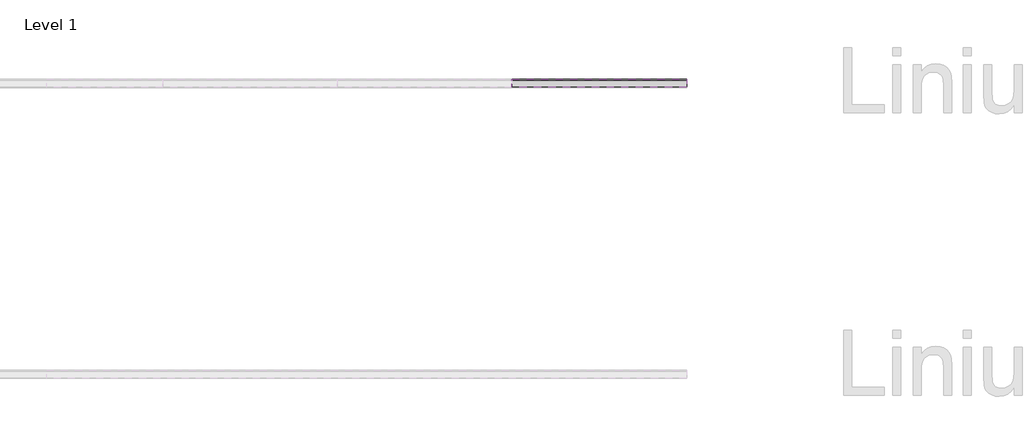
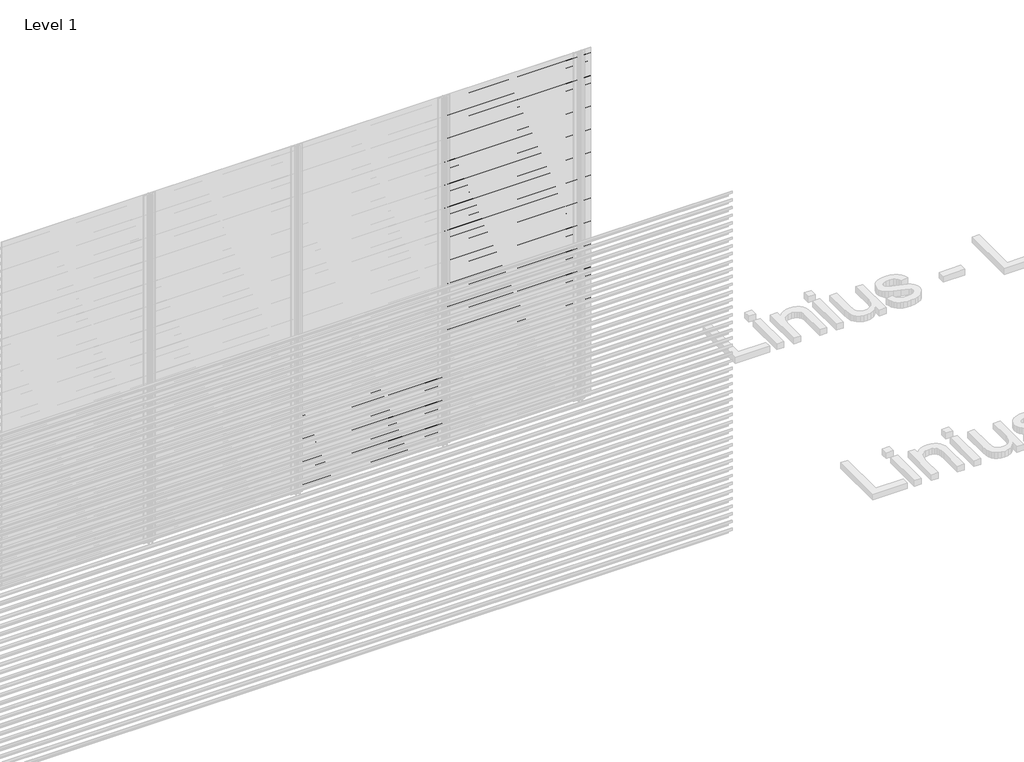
# One storey, part 123 of 540: 43 proxies.
"""IFC4 building model written with IfcOpenShell, lengths in millimetres."""

from ifc_helpers import new_model, si_unit, point, frame, frame_2d, origin, place, context, project, spatial, polyline, circle_curve, trimmed, segment, composite_curve, outline, extrude, element, save

model = new_model("IFC4")

# Units and contexts
model_context = context("Model", 3, world=origin())
ifc_project = project(units=[si_unit("LENGTHUNIT", "METRE", prefix="MILLI")], contexts=[model_context])

# Site, building, storey
site = spatial("IfcSite", under=ifc_project)
building = spatial("IfcBuilding", under=site)
storey = spatial("IfcBuildingStorey", under=building, Name="Level 1", Elevation=0.0)

# Proxies
placement = place(None, origin())
element("IfcBuildingElementProxy", 1, Name="Wall Sweeps", at=placement, inside=storey, context=model_context, shape_type="SweptSolid", body=[
    extrude(outline(composite_curve([segment(trimmed(circle_curve(frame_2d((7017.5825412, 2899.7676769)), 26.4944656), [point((7034.5447587, 2920.1205608))], [point((7044.0270068, 2901.3946208))], False, "CARTESIAN"), True, "CONTINUOUS"), segment(polyline([(7044.0270068, 2901.3946208), (7044.0270068, 2893.5), (7042.7770068, 2894.2216933), (7042.7770068, 2899.7676769)]), True, "CONTINUOUS"), segment(trimmed(circle_curve(frame_2d((7017.5825412, 2899.7676769)), 25.1944656), [point((7042.7770068, 2899.7676769))], [point((7033.7545017, 2919.086807))], True, "CARTESIAN"), True, "CONTINUOUS"), segment(polyline([(7033.7545017, 2919.086807), (6989.0270068, 2950.3158044), (6989.0270068, 2970.0), (6990.2770068, 2970.0), (6990.2770068, 2951.0285629), (7034.5447587, 2920.1205608)]), True, "CONTINUOUS")], self_intersect=False)), frame((94266.6208095, 0.0, 0.0), z_axis=(1.0, 0.0, 0.0), x_axis=(0.0, 1.0, 0.0)), (0.0, 0.0, 1.0), 1200.0000002),
])
element("IfcBuildingElementProxy", 2, Name="Wall Sweeps", at=placement, inside=storey, context=model_context, shape_type="SweptSolid", body=[
    extrude(outline(composite_curve([segment(trimmed(circle_curve(frame_2d((7017.5825412, 2833.7676769)), 26.4944656), [point((7034.5447587, 2854.1205608))], [point((7044.0270068, 2835.3946208))], False, "CARTESIAN"), True, "CONTINUOUS"), segment(polyline([(7044.0270068, 2835.3946208), (7044.0270068, 2827.5), (7042.7770068, 2828.2216933), (7042.7770068, 2833.7676769)]), True, "CONTINUOUS"), segment(trimmed(circle_curve(frame_2d((7017.5825412, 2833.7676769)), 25.1944656), [point((7042.7770068, 2833.7676769))], [point((7033.7545017, 2853.086807))], True, "CARTESIAN"), True, "CONTINUOUS"), segment(polyline([(7033.7545017, 2853.086807), (6989.0270068, 2884.3158044), (6989.0270068, 2904.0), (6990.2770068, 2904.0), (6990.2770068, 2885.0285629), (7034.5447587, 2854.1205608)]), True, "CONTINUOUS")], self_intersect=False)), frame((94266.6208095, 0.0, 0.0), z_axis=(1.0, 0.0, 0.0), x_axis=(0.0, 1.0, 0.0)), (0.0, 0.0, 1.0), 1200.0000002),
])
element("IfcBuildingElementProxy", 3, Name="Wall Sweeps", at=placement, inside=storey, context=model_context, shape_type="SweptSolid", body=[
    extrude(outline(composite_curve([segment(trimmed(circle_curve(frame_2d((7017.5825412, 2767.7676769)), 26.4944656), [point((7034.5447587, 2788.1205608))], [point((7044.0270068, 2769.3946208))], False, "CARTESIAN"), True, "CONTINUOUS"), segment(polyline([(7044.0270068, 2769.3946208), (7044.0270068, 2761.5), (7042.7770068, 2762.2216933), (7042.7770068, 2767.7676769)]), True, "CONTINUOUS"), segment(trimmed(circle_curve(frame_2d((7017.5825412, 2767.7676769)), 25.1944656), [point((7042.7770068, 2767.7676769))], [point((7033.7545017, 2787.086807))], True, "CARTESIAN"), True, "CONTINUOUS"), segment(polyline([(7033.7545017, 2787.086807), (6989.0270068, 2818.3158044), (6989.0270068, 2838.0), (6990.2770068, 2838.0), (6990.2770068, 2819.0285629), (7034.5447587, 2788.1205608)]), True, "CONTINUOUS")], self_intersect=False)), frame((94266.6208095, 0.0, 0.0), z_axis=(1.0, 0.0, 0.0), x_axis=(0.0, 1.0, 0.0)), (0.0, 0.0, 1.0), 1200.0000002),
])
element("IfcBuildingElementProxy", 4, Name="Wall Sweeps", at=placement, inside=storey, context=model_context, shape_type="SweptSolid", body=[
    extrude(outline(composite_curve([segment(trimmed(circle_curve(frame_2d((7017.5825412, 2701.7676769)), 26.4944656), [point((7034.5447587, 2722.1205608))], [point((7044.0270068, 2703.3946208))], False, "CARTESIAN"), True, "CONTINUOUS"), segment(polyline([(7044.0270068, 2703.3946208), (7044.0270068, 2695.5), (7042.7770068, 2696.2216933), (7042.7770068, 2701.7676769)]), True, "CONTINUOUS"), segment(trimmed(circle_curve(frame_2d((7017.5825412, 2701.7676769)), 25.1944656), [point((7042.7770068, 2701.7676769))], [point((7033.7545017, 2721.086807))], True, "CARTESIAN"), True, "CONTINUOUS"), segment(polyline([(7033.7545017, 2721.086807), (6989.0270068, 2752.3158044), (6989.0270068, 2772.0), (6990.2770068, 2772.0), (6990.2770068, 2753.0285629), (7034.5447587, 2722.1205608)]), True, "CONTINUOUS")], self_intersect=False)), frame((94266.6208095, 0.0, 0.0), z_axis=(1.0, 0.0, 0.0), x_axis=(0.0, 1.0, 0.0)), (0.0, 0.0, 1.0), 1200.0000002),
])
element("IfcBuildingElementProxy", 5, Name="Wall Sweeps", at=placement, inside=storey, context=model_context, shape_type="SweptSolid", body=[
    extrude(outline(composite_curve([segment(trimmed(circle_curve(frame_2d((7017.5825412, 2635.7676769)), 26.4944656), [point((7034.5447587, 2656.1205608))], [point((7044.0270068, 2637.3946208))], False, "CARTESIAN"), True, "CONTINUOUS"), segment(polyline([(7044.0270068, 2637.3946208), (7044.0270068, 2629.5), (7042.7770068, 2630.2216933), (7042.7770068, 2635.7676769)]), True, "CONTINUOUS"), segment(trimmed(circle_curve(frame_2d((7017.5825412, 2635.7676769)), 25.1944656), [point((7042.7770068, 2635.7676769))], [point((7033.7545017, 2655.086807))], True, "CARTESIAN"), True, "CONTINUOUS"), segment(polyline([(7033.7545017, 2655.086807), (6989.0270068, 2686.3158044), (6989.0270068, 2706.0), (6990.2770068, 2706.0), (6990.2770068, 2687.0285629), (7034.5447587, 2656.1205608)]), True, "CONTINUOUS")], self_intersect=False)), frame((94266.6208095, 0.0, 0.0), z_axis=(1.0, 0.0, 0.0), x_axis=(0.0, 1.0, 0.0)), (0.0, 0.0, 1.0), 1200.0000002),
])
element("IfcBuildingElementProxy", 6, Name="Wall Sweeps", at=placement, inside=storey, context=model_context, shape_type="SweptSolid", body=[
    extrude(outline(composite_curve([segment(trimmed(circle_curve(frame_2d((7017.5825412, 2569.7676769)), 26.4944656), [point((7034.5447587, 2590.1205608))], [point((7044.0270068, 2571.3946208))], False, "CARTESIAN"), True, "CONTINUOUS"), segment(polyline([(7044.0270068, 2571.3946208), (7044.0270068, 2563.5), (7042.7770068, 2564.2216933), (7042.7770068, 2569.7676769)]), True, "CONTINUOUS"), segment(trimmed(circle_curve(frame_2d((7017.5825412, 2569.7676769)), 25.1944656), [point((7042.7770068, 2569.7676769))], [point((7033.7545017, 2589.086807))], True, "CARTESIAN"), True, "CONTINUOUS"), segment(polyline([(7033.7545017, 2589.086807), (6989.0270068, 2620.3158044), (6989.0270068, 2640.0), (6990.2770068, 2640.0), (6990.2770068, 2621.0285629), (7034.5447587, 2590.1205608)]), True, "CONTINUOUS")], self_intersect=False)), frame((94266.6208095, 0.0, 0.0), z_axis=(1.0, 0.0, 0.0), x_axis=(0.0, 1.0, 0.0)), (0.0, 0.0, 1.0), 1200.0000002),
])
element("IfcBuildingElementProxy", 7, Name="Wall Sweeps", at=placement, inside=storey, context=model_context, shape_type="SweptSolid", body=[
    extrude(outline(composite_curve([segment(trimmed(circle_curve(frame_2d((7017.5825412, 2503.7676769)), 26.4944656), [point((7034.5447587, 2524.1205608))], [point((7044.0270068, 2505.3946208))], False, "CARTESIAN"), True, "CONTINUOUS"), segment(polyline([(7044.0270068, 2505.3946208), (7044.0270068, 2497.5), (7042.7770068, 2498.2216933), (7042.7770068, 2503.7676769)]), True, "CONTINUOUS"), segment(trimmed(circle_curve(frame_2d((7017.5825412, 2503.7676769)), 25.1944656), [point((7042.7770068, 2503.7676769))], [point((7033.7545017, 2523.086807))], True, "CARTESIAN"), True, "CONTINUOUS"), segment(polyline([(7033.7545017, 2523.086807), (6989.0270068, 2554.3158044), (6989.0270068, 2574.0), (6990.2770068, 2574.0), (6990.2770068, 2555.0285629), (7034.5447587, 2524.1205608)]), True, "CONTINUOUS")], self_intersect=False)), frame((94266.6208095, 0.0, 0.0), z_axis=(1.0, 0.0, 0.0), x_axis=(0.0, 1.0, 0.0)), (0.0, 0.0, 1.0), 1200.0000002),
])
element("IfcBuildingElementProxy", 8, Name="Wall Sweeps", at=placement, inside=storey, context=model_context, shape_type="SweptSolid", body=[
    extrude(outline(composite_curve([segment(trimmed(circle_curve(frame_2d((7017.5825412, 2437.7676769)), 26.4944656), [point((7034.5447587, 2458.1205608))], [point((7044.0270068, 2439.3946208))], False, "CARTESIAN"), True, "CONTINUOUS"), segment(polyline([(7044.0270068, 2439.3946208), (7044.0270068, 2431.5), (7042.7770068, 2432.2216933), (7042.7770068, 2437.7676769)]), True, "CONTINUOUS"), segment(trimmed(circle_curve(frame_2d((7017.5825412, 2437.7676769)), 25.1944656), [point((7042.7770068, 2437.7676769))], [point((7033.7545017, 2457.086807))], True, "CARTESIAN"), True, "CONTINUOUS"), segment(polyline([(7033.7545017, 2457.086807), (6989.0270068, 2488.3158044), (6989.0270068, 2508.0), (6990.2770068, 2508.0), (6990.2770068, 2489.0285629), (7034.5447587, 2458.1205608)]), True, "CONTINUOUS")], self_intersect=False)), frame((94266.6208095, 0.0, 0.0), z_axis=(1.0, 0.0, 0.0), x_axis=(0.0, 1.0, 0.0)), (0.0, 0.0, 1.0), 1200.0000002),
])
element("IfcBuildingElementProxy", 9, Name="Wall Sweeps", at=placement, inside=storey, context=model_context, shape_type="SweptSolid", body=[
    extrude(outline(composite_curve([segment(trimmed(circle_curve(frame_2d((7017.5825412, 2371.7676769)), 26.4944656), [point((7034.5447587, 2392.1205608))], [point((7044.0270068, 2373.3946208))], False, "CARTESIAN"), True, "CONTINUOUS"), segment(polyline([(7044.0270068, 2373.3946208), (7044.0270068, 2365.5), (7042.7770068, 2366.2216933), (7042.7770068, 2371.7676769)]), True, "CONTINUOUS"), segment(trimmed(circle_curve(frame_2d((7017.5825412, 2371.7676769)), 25.1944656), [point((7042.7770068, 2371.7676769))], [point((7033.7545017, 2391.086807))], True, "CARTESIAN"), True, "CONTINUOUS"), segment(polyline([(7033.7545017, 2391.086807), (6989.0270068, 2422.3158044), (6989.0270068, 2442.0), (6990.2770068, 2442.0), (6990.2770068, 2423.0285629), (7034.5447587, 2392.1205608)]), True, "CONTINUOUS")], self_intersect=False)), frame((94266.6208095, 0.0, 0.0), z_axis=(1.0, 0.0, 0.0), x_axis=(0.0, 1.0, 0.0)), (0.0, 0.0, 1.0), 1200.0000002),
])
element("IfcBuildingElementProxy", 10, Name="Wall Sweeps", at=placement, inside=storey, context=model_context, shape_type="SweptSolid", body=[
    extrude(outline(composite_curve([segment(trimmed(circle_curve(frame_2d((7017.5825412, 2305.7676769)), 26.4944656), [point((7034.5447587, 2326.1205608))], [point((7044.0270068, 2307.3946208))], False, "CARTESIAN"), True, "CONTINUOUS"), segment(polyline([(7044.0270068, 2307.3946208), (7044.0270068, 2299.5), (7042.7770068, 2300.2216933), (7042.7770068, 2305.7676769)]), True, "CONTINUOUS"), segment(trimmed(circle_curve(frame_2d((7017.5825412, 2305.7676769)), 25.1944656), [point((7042.7770068, 2305.7676769))], [point((7033.7545017, 2325.086807))], True, "CARTESIAN"), True, "CONTINUOUS"), segment(polyline([(7033.7545017, 2325.086807), (6989.0270068, 2356.3158044), (6989.0270068, 2376.0), (6990.2770068, 2376.0), (6990.2770068, 2357.0285629), (7034.5447587, 2326.1205608)]), True, "CONTINUOUS")], self_intersect=False)), frame((94266.6208095, 0.0, 0.0), z_axis=(1.0, 0.0, 0.0), x_axis=(0.0, 1.0, 0.0)), (0.0, 0.0, 1.0), 1200.0000002),
])
element("IfcBuildingElementProxy", 11, Name="Wall Sweeps", at=placement, inside=storey, context=model_context, shape_type="SweptSolid", body=[
    extrude(outline(composite_curve([segment(trimmed(circle_curve(frame_2d((7017.5825412, 2239.7676769)), 26.4944656), [point((7034.5447587, 2260.1205608))], [point((7044.0270068, 2241.3946208))], False, "CARTESIAN"), True, "CONTINUOUS"), segment(polyline([(7044.0270068, 2241.3946208), (7044.0270068, 2233.5), (7042.7770068, 2234.2216933), (7042.7770068, 2239.7676769)]), True, "CONTINUOUS"), segment(trimmed(circle_curve(frame_2d((7017.5825412, 2239.7676769)), 25.1944656), [point((7042.7770068, 2239.7676769))], [point((7033.7545017, 2259.086807))], True, "CARTESIAN"), True, "CONTINUOUS"), segment(polyline([(7033.7545017, 2259.086807), (6989.0270068, 2290.3158044), (6989.0270068, 2310.0), (6990.2770068, 2310.0), (6990.2770068, 2291.0285629), (7034.5447587, 2260.1205608)]), True, "CONTINUOUS")], self_intersect=False)), frame((94266.6208095, 0.0, 0.0), z_axis=(1.0, 0.0, 0.0), x_axis=(0.0, 1.0, 0.0)), (0.0, 0.0, 1.0), 1200.0000002),
])
element("IfcBuildingElementProxy", 12, Name="Wall Sweeps", at=placement, inside=storey, context=model_context, shape_type="SweptSolid", body=[
    extrude(outline(composite_curve([segment(trimmed(circle_curve(frame_2d((7017.5825412, 2173.7676769)), 26.4944656), [point((7034.5447587, 2194.1205608))], [point((7044.0270068, 2175.3946208))], False, "CARTESIAN"), True, "CONTINUOUS"), segment(polyline([(7044.0270068, 2175.3946208), (7044.0270068, 2167.5), (7042.7770068, 2168.2216933), (7042.7770068, 2173.7676769)]), True, "CONTINUOUS"), segment(trimmed(circle_curve(frame_2d((7017.5825412, 2173.7676769)), 25.1944656), [point((7042.7770068, 2173.7676769))], [point((7033.7545017, 2193.086807))], True, "CARTESIAN"), True, "CONTINUOUS"), segment(polyline([(7033.7545017, 2193.086807), (6989.0270068, 2224.3158044), (6989.0270068, 2244.0), (6990.2770068, 2244.0), (6990.2770068, 2225.0285629), (7034.5447587, 2194.1205608)]), True, "CONTINUOUS")], self_intersect=False)), frame((94266.6208095, 0.0, 0.0), z_axis=(1.0, 0.0, 0.0), x_axis=(0.0, 1.0, 0.0)), (0.0, 0.0, 1.0), 1200.0000002),
])
element("IfcBuildingElementProxy", 13, Name="Wall Sweeps", at=placement, inside=storey, context=model_context, shape_type="SweptSolid", body=[
    extrude(outline(composite_curve([segment(trimmed(circle_curve(frame_2d((7017.5825412, 2107.7676769)), 26.4944656), [point((7034.5447587, 2128.1205608))], [point((7044.0270068, 2109.3946208))], False, "CARTESIAN"), True, "CONTINUOUS"), segment(polyline([(7044.0270068, 2109.3946208), (7044.0270068, 2101.5), (7042.7770068, 2102.2216933), (7042.7770068, 2107.7676769)]), True, "CONTINUOUS"), segment(trimmed(circle_curve(frame_2d((7017.5825412, 2107.7676769)), 25.1944656), [point((7042.7770068, 2107.7676769))], [point((7033.7545017, 2127.086807))], True, "CARTESIAN"), True, "CONTINUOUS"), segment(polyline([(7033.7545017, 2127.086807), (6989.0270068, 2158.3158044), (6989.0270068, 2178.0), (6990.2770068, 2178.0), (6990.2770068, 2159.0285629), (7034.5447587, 2128.1205608)]), True, "CONTINUOUS")], self_intersect=False)), frame((94266.6208095, 0.0, 0.0), z_axis=(1.0, 0.0, 0.0), x_axis=(0.0, 1.0, 0.0)), (0.0, 0.0, 1.0), 1200.0000002),
])
element("IfcBuildingElementProxy", 14, Name="Wall Sweeps", at=placement, inside=storey, context=model_context, shape_type="SweptSolid", body=[
    extrude(outline(composite_curve([segment(trimmed(circle_curve(frame_2d((7017.5825412, 2041.7676769)), 26.4944656), [point((7034.5447587, 2062.1205608))], [point((7044.0270068, 2043.3946208))], False, "CARTESIAN"), True, "CONTINUOUS"), segment(polyline([(7044.0270068, 2043.3946208), (7044.0270068, 2035.5), (7042.7770068, 2036.2216933), (7042.7770068, 2041.7676769)]), True, "CONTINUOUS"), segment(trimmed(circle_curve(frame_2d((7017.5825412, 2041.7676769)), 25.1944656), [point((7042.7770068, 2041.7676769))], [point((7033.7545017, 2061.086807))], True, "CARTESIAN"), True, "CONTINUOUS"), segment(polyline([(7033.7545017, 2061.086807), (6989.0270068, 2092.3158044), (6989.0270068, 2112.0), (6990.2770068, 2112.0), (6990.2770068, 2093.0285629), (7034.5447587, 2062.1205608)]), True, "CONTINUOUS")], self_intersect=False)), frame((94266.6208095, 0.0, 0.0), z_axis=(1.0, 0.0, 0.0), x_axis=(0.0, 1.0, 0.0)), (0.0, 0.0, 1.0), 1200.0000002),
])
element("IfcBuildingElementProxy", 15, Name="Wall Sweeps", at=placement, inside=storey, context=model_context, shape_type="SweptSolid", body=[
    extrude(outline(composite_curve([segment(trimmed(circle_curve(frame_2d((7017.5825412, 1975.7676769)), 26.4944656), [point((7034.5447587, 1996.1205608))], [point((7044.0270068, 1977.3946208))], False, "CARTESIAN"), True, "CONTINUOUS"), segment(polyline([(7044.0270068, 1977.3946208), (7044.0270068, 1969.5), (7042.7770068, 1970.2216933), (7042.7770068, 1975.7676769)]), True, "CONTINUOUS"), segment(trimmed(circle_curve(frame_2d((7017.5825412, 1975.7676769)), 25.1944656), [point((7042.7770068, 1975.7676769))], [point((7033.7545017, 1995.086807))], True, "CARTESIAN"), True, "CONTINUOUS"), segment(polyline([(7033.7545017, 1995.086807), (6989.0270068, 2026.3158044), (6989.0270068, 2046.0), (6990.2770068, 2046.0), (6990.2770068, 2027.0285629), (7034.5447587, 1996.1205608)]), True, "CONTINUOUS")], self_intersect=False)), frame((94266.6208095, 0.0, 0.0), z_axis=(1.0, 0.0, 0.0), x_axis=(0.0, 1.0, 0.0)), (0.0, 0.0, 1.0), 1200.0000002),
])
element("IfcBuildingElementProxy", 16, Name="Wall Sweeps", at=placement, inside=storey, context=model_context, shape_type="SweptSolid", body=[
    extrude(outline(composite_curve([segment(trimmed(circle_curve(frame_2d((7017.5825412, 1909.7676769)), 26.4944656), [point((7034.5447587, 1930.1205608))], [point((7044.0270068, 1911.3946208))], False, "CARTESIAN"), True, "CONTINUOUS"), segment(polyline([(7044.0270068, 1911.3946208), (7044.0270068, 1903.5), (7042.7770068, 1904.2216933), (7042.7770068, 1909.7676769)]), True, "CONTINUOUS"), segment(trimmed(circle_curve(frame_2d((7017.5825412, 1909.7676769)), 25.1944656), [point((7042.7770068, 1909.7676769))], [point((7033.7545017, 1929.086807))], True, "CARTESIAN"), True, "CONTINUOUS"), segment(polyline([(7033.7545017, 1929.086807), (6989.0270068, 1960.3158044), (6989.0270068, 1980.0), (6990.2770068, 1980.0), (6990.2770068, 1961.0285629), (7034.5447587, 1930.1205608)]), True, "CONTINUOUS")], self_intersect=False)), frame((94266.6208095, 0.0, 0.0), z_axis=(1.0, 0.0, 0.0), x_axis=(0.0, 1.0, 0.0)), (0.0, 0.0, 1.0), 1200.0000002),
])
element("IfcBuildingElementProxy", 17, Name="Wall Sweeps", at=placement, inside=storey, context=model_context, shape_type="SweptSolid", body=[
    extrude(outline(composite_curve([segment(trimmed(circle_curve(frame_2d((7017.5825412, 1843.7676769)), 26.4944656), [point((7034.5447587, 1864.1205608))], [point((7044.0270068, 1845.3946208))], False, "CARTESIAN"), True, "CONTINUOUS"), segment(polyline([(7044.0270068, 1845.3946208), (7044.0270068, 1837.5), (7042.7770068, 1838.2216933), (7042.7770068, 1843.7676769)]), True, "CONTINUOUS"), segment(trimmed(circle_curve(frame_2d((7017.5825412, 1843.7676769)), 25.1944656), [point((7042.7770068, 1843.7676769))], [point((7033.7545017, 1863.086807))], True, "CARTESIAN"), True, "CONTINUOUS"), segment(polyline([(7033.7545017, 1863.086807), (6989.0270068, 1894.3158044), (6989.0270068, 1914.0), (6990.2770068, 1914.0), (6990.2770068, 1895.0285629), (7034.5447587, 1864.1205608)]), True, "CONTINUOUS")], self_intersect=False)), frame((94266.6208095, 0.0, 0.0), z_axis=(1.0, 0.0, 0.0), x_axis=(0.0, 1.0, 0.0)), (0.0, 0.0, 1.0), 1200.0000002),
])
element("IfcBuildingElementProxy", 18, Name="Wall Sweeps", at=placement, inside=storey, context=model_context, shape_type="SweptSolid", body=[
    extrude(outline(composite_curve([segment(trimmed(circle_curve(frame_2d((7017.5825412, 1777.7676769)), 26.4944656), [point((7034.5447587, 1798.1205608))], [point((7044.0270068, 1779.3946208))], False, "CARTESIAN"), True, "CONTINUOUS"), segment(polyline([(7044.0270068, 1779.3946208), (7044.0270068, 1771.5), (7042.7770068, 1772.2216933), (7042.7770068, 1777.7676769)]), True, "CONTINUOUS"), segment(trimmed(circle_curve(frame_2d((7017.5825412, 1777.7676769)), 25.1944656), [point((7042.7770068, 1777.7676769))], [point((7033.7545017, 1797.086807))], True, "CARTESIAN"), True, "CONTINUOUS"), segment(polyline([(7033.7545017, 1797.086807), (6989.0270068, 1828.3158044), (6989.0270068, 1848.0), (6990.2770068, 1848.0), (6990.2770068, 1829.0285629), (7034.5447587, 1798.1205608)]), True, "CONTINUOUS")], self_intersect=False)), frame((94266.6208095, 0.0, 0.0), z_axis=(1.0, 0.0, 0.0), x_axis=(0.0, 1.0, 0.0)), (0.0, 0.0, 1.0), 1200.0000002),
])
element("IfcBuildingElementProxy", 19, Name="Wall Sweeps", at=placement, inside=storey, context=model_context, shape_type="SweptSolid", body=[
    extrude(outline(composite_curve([segment(trimmed(circle_curve(frame_2d((7017.5825412, 1711.7676769)), 26.4944656), [point((7034.5447587, 1732.1205608))], [point((7044.0270068, 1713.3946208))], False, "CARTESIAN"), True, "CONTINUOUS"), segment(polyline([(7044.0270068, 1713.3946208), (7044.0270068, 1705.5), (7042.7770068, 1706.2216933), (7042.7770068, 1711.7676769)]), True, "CONTINUOUS"), segment(trimmed(circle_curve(frame_2d((7017.5825412, 1711.7676769)), 25.1944656), [point((7042.7770068, 1711.7676769))], [point((7033.7545017, 1731.086807))], True, "CARTESIAN"), True, "CONTINUOUS"), segment(polyline([(7033.7545017, 1731.086807), (6989.0270068, 1762.3158044), (6989.0270068, 1782.0), (6990.2770068, 1782.0), (6990.2770068, 1763.0285629), (7034.5447587, 1732.1205608)]), True, "CONTINUOUS")], self_intersect=False)), frame((94266.6208095, 0.0, 0.0), z_axis=(1.0, 0.0, 0.0), x_axis=(0.0, 1.0, 0.0)), (0.0, 0.0, 1.0), 1200.0000002),
])
element("IfcBuildingElementProxy", 20, Name="Wall Sweeps", at=placement, inside=storey, context=model_context, shape_type="SweptSolid", body=[
    extrude(outline(composite_curve([segment(trimmed(circle_curve(frame_2d((7017.5825412, 1645.7676769)), 26.4944656), [point((7034.5447587, 1666.1205608))], [point((7044.0270068, 1647.3946208))], False, "CARTESIAN"), True, "CONTINUOUS"), segment(polyline([(7044.0270068, 1647.3946208), (7044.0270068, 1639.5), (7042.7770068, 1640.2216933), (7042.7770068, 1645.7676769)]), True, "CONTINUOUS"), segment(trimmed(circle_curve(frame_2d((7017.5825412, 1645.7676769)), 25.1944656), [point((7042.7770068, 1645.7676769))], [point((7033.7545017, 1665.086807))], True, "CARTESIAN"), True, "CONTINUOUS"), segment(polyline([(7033.7545017, 1665.086807), (6989.0270068, 1696.3158044), (6989.0270068, 1716.0), (6990.2770068, 1716.0), (6990.2770068, 1697.0285629), (7034.5447587, 1666.1205608)]), True, "CONTINUOUS")], self_intersect=False)), frame((94266.6208095, 0.0, 0.0), z_axis=(1.0, 0.0, 0.0), x_axis=(0.0, 1.0, 0.0)), (0.0, 0.0, 1.0), 1200.0000002),
])
element("IfcBuildingElementProxy", 21, Name="Wall Sweeps", at=placement, inside=storey, context=model_context, shape_type="SweptSolid", body=[
    extrude(outline(composite_curve([segment(trimmed(circle_curve(frame_2d((7017.5825412, 1579.7676769)), 26.4944656), [point((7034.5447587, 1600.1205608))], [point((7044.0270068, 1581.3946208))], False, "CARTESIAN"), True, "CONTINUOUS"), segment(polyline([(7044.0270068, 1581.3946208), (7044.0270068, 1573.5), (7042.7770068, 1574.2216933), (7042.7770068, 1579.7676769)]), True, "CONTINUOUS"), segment(trimmed(circle_curve(frame_2d((7017.5825412, 1579.7676769)), 25.1944656), [point((7042.7770068, 1579.7676769))], [point((7033.7545017, 1599.086807))], True, "CARTESIAN"), True, "CONTINUOUS"), segment(polyline([(7033.7545017, 1599.086807), (6989.0270068, 1630.3158044), (6989.0270068, 1650.0), (6990.2770068, 1650.0), (6990.2770068, 1631.0285629), (7034.5447587, 1600.1205608)]), True, "CONTINUOUS")], self_intersect=False)), frame((94266.6208095, 0.0, 0.0), z_axis=(1.0, 0.0, 0.0), x_axis=(0.0, 1.0, 0.0)), (0.0, 0.0, 1.0), 1200.0000002),
])
element("IfcBuildingElementProxy", 22, Name="Wall Sweeps", at=placement, inside=storey, context=model_context, shape_type="SweptSolid", body=[
    extrude(outline(composite_curve([segment(trimmed(circle_curve(frame_2d((7017.5825412, 1513.7676769)), 26.4944656), [point((7034.5447587, 1534.1205608))], [point((7044.0270068, 1515.3946208))], False, "CARTESIAN"), True, "CONTINUOUS"), segment(polyline([(7044.0270068, 1515.3946208), (7044.0270068, 1507.5), (7042.7770068, 1508.2216933), (7042.7770068, 1513.7676769)]), True, "CONTINUOUS"), segment(trimmed(circle_curve(frame_2d((7017.5825412, 1513.7676769)), 25.1944656), [point((7042.7770068, 1513.7676769))], [point((7033.7545017, 1533.086807))], True, "CARTESIAN"), True, "CONTINUOUS"), segment(polyline([(7033.7545017, 1533.086807), (6989.0270068, 1564.3158044), (6989.0270068, 1584.0), (6990.2770068, 1584.0), (6990.2770068, 1565.0285629), (7034.5447587, 1534.1205608)]), True, "CONTINUOUS")], self_intersect=False)), frame((94266.6208095, 0.0, 0.0), z_axis=(1.0, 0.0, 0.0), x_axis=(0.0, 1.0, 0.0)), (0.0, 0.0, 1.0), 1200.0000002),
])
element("IfcBuildingElementProxy", 23, Name="Wall Sweeps", at=placement, inside=storey, context=model_context, shape_type="SweptSolid", body=[
    extrude(outline(composite_curve([segment(trimmed(circle_curve(frame_2d((7017.5825412, 1447.7676769)), 26.4944656), [point((7034.5447587, 1468.1205608))], [point((7044.0270068, 1449.3946208))], False, "CARTESIAN"), True, "CONTINUOUS"), segment(polyline([(7044.0270068, 1449.3946208), (7044.0270068, 1441.5), (7042.7770068, 1442.2216933), (7042.7770068, 1447.7676769)]), True, "CONTINUOUS"), segment(trimmed(circle_curve(frame_2d((7017.5825412, 1447.7676769)), 25.1944656), [point((7042.7770068, 1447.7676769))], [point((7033.7545017, 1467.086807))], True, "CARTESIAN"), True, "CONTINUOUS"), segment(polyline([(7033.7545017, 1467.086807), (6989.0270068, 1498.3158044), (6989.0270068, 1518.0), (6990.2770068, 1518.0), (6990.2770068, 1499.0285629), (7034.5447587, 1468.1205608)]), True, "CONTINUOUS")], self_intersect=False)), frame((94266.6208095, 0.0, 0.0), z_axis=(1.0, 0.0, 0.0), x_axis=(0.0, 1.0, 0.0)), (0.0, 0.0, 1.0), 1200.0000002),
])
element("IfcBuildingElementProxy", 24, Name="Wall Sweeps", at=placement, inside=storey, context=model_context, shape_type="SweptSolid", body=[
    extrude(outline(composite_curve([segment(trimmed(circle_curve(frame_2d((7017.5825412, 1381.7676769)), 26.4944656), [point((7034.5447587, 1402.1205608))], [point((7044.0270068, 1383.3946208))], False, "CARTESIAN"), True, "CONTINUOUS"), segment(polyline([(7044.0270068, 1383.3946208), (7044.0270068, 1375.5), (7042.7770068, 1376.2216933), (7042.7770068, 1381.7676769)]), True, "CONTINUOUS"), segment(trimmed(circle_curve(frame_2d((7017.5825412, 1381.7676769)), 25.1944656), [point((7042.7770068, 1381.7676769))], [point((7033.7545017, 1401.086807))], True, "CARTESIAN"), True, "CONTINUOUS"), segment(polyline([(7033.7545017, 1401.086807), (6989.0270068, 1432.3158044), (6989.0270068, 1452.0), (6990.2770068, 1452.0), (6990.2770068, 1433.0285629), (7034.5447587, 1402.1205608)]), True, "CONTINUOUS")], self_intersect=False)), frame((94266.6208095, 0.0, 0.0), z_axis=(1.0, 0.0, 0.0), x_axis=(0.0, 1.0, 0.0)), (0.0, 0.0, 1.0), 1200.0000002),
])
element("IfcBuildingElementProxy", 25, Name="Wall Sweeps", at=placement, inside=storey, context=model_context, shape_type="SweptSolid", body=[
    extrude(outline(composite_curve([segment(trimmed(circle_curve(frame_2d((7017.5825412, 1315.7676769)), 26.4944656), [point((7034.5447587, 1336.1205608))], [point((7044.0270068, 1317.3946208))], False, "CARTESIAN"), True, "CONTINUOUS"), segment(polyline([(7044.0270068, 1317.3946208), (7044.0270068, 1309.5), (7042.7770068, 1310.2216933), (7042.7770068, 1315.7676769)]), True, "CONTINUOUS"), segment(trimmed(circle_curve(frame_2d((7017.5825412, 1315.7676769)), 25.1944656), [point((7042.7770068, 1315.7676769))], [point((7033.7545017, 1335.086807))], True, "CARTESIAN"), True, "CONTINUOUS"), segment(polyline([(7033.7545017, 1335.086807), (6989.0270068, 1366.3158044), (6989.0270068, 1386.0), (6990.2770068, 1386.0), (6990.2770068, 1367.0285629), (7034.5447587, 1336.1205608)]), True, "CONTINUOUS")], self_intersect=False)), frame((94266.6208095, 0.0, 0.0), z_axis=(1.0, 0.0, 0.0), x_axis=(0.0, 1.0, 0.0)), (0.0, 0.0, 1.0), 1200.0000002),
])
element("IfcBuildingElementProxy", 26, Name="Wall Sweeps", at=placement, inside=storey, context=model_context, shape_type="SweptSolid", body=[
    extrude(outline(composite_curve([segment(trimmed(circle_curve(frame_2d((7017.5825412, 1249.7676769)), 26.4944656), [point((7034.5447587, 1270.1205608))], [point((7044.0270068, 1251.3946208))], False, "CARTESIAN"), True, "CONTINUOUS"), segment(polyline([(7044.0270068, 1251.3946208), (7044.0270068, 1243.5), (7042.7770068, 1244.2216933), (7042.7770068, 1249.7676769)]), True, "CONTINUOUS"), segment(trimmed(circle_curve(frame_2d((7017.5825412, 1249.7676769)), 25.1944656), [point((7042.7770068, 1249.7676769))], [point((7033.7545017, 1269.086807))], True, "CARTESIAN"), True, "CONTINUOUS"), segment(polyline([(7033.7545017, 1269.086807), (6989.0270068, 1300.3158044), (6989.0270068, 1320.0), (6990.2770068, 1320.0), (6990.2770068, 1301.0285629), (7034.5447587, 1270.1205608)]), True, "CONTINUOUS")], self_intersect=False)), frame((94266.6208095, 0.0, 0.0), z_axis=(1.0, 0.0, 0.0), x_axis=(0.0, 1.0, 0.0)), (0.0, 0.0, 1.0), 1200.0000002),
])
element("IfcBuildingElementProxy", 27, Name="Wall Sweeps", at=placement, inside=storey, context=model_context, shape_type="SweptSolid", body=[
    extrude(outline(composite_curve([segment(trimmed(circle_curve(frame_2d((7017.5825412, 1183.7676769)), 26.4944656), [point((7034.5447587, 1204.1205608))], [point((7044.0270068, 1185.3946208))], False, "CARTESIAN"), True, "CONTINUOUS"), segment(polyline([(7044.0270068, 1185.3946208), (7044.0270068, 1177.5), (7042.7770068, 1178.2216933), (7042.7770068, 1183.7676769)]), True, "CONTINUOUS"), segment(trimmed(circle_curve(frame_2d((7017.5825412, 1183.7676769)), 25.1944656), [point((7042.7770068, 1183.7676769))], [point((7033.7545017, 1203.086807))], True, "CARTESIAN"), True, "CONTINUOUS"), segment(polyline([(7033.7545017, 1203.086807), (6989.0270068, 1234.3158044), (6989.0270068, 1254.0), (6990.2770068, 1254.0), (6990.2770068, 1235.0285629), (7034.5447587, 1204.1205608)]), True, "CONTINUOUS")], self_intersect=False)), frame((94266.6208095, 0.0, 0.0), z_axis=(1.0, 0.0, 0.0), x_axis=(0.0, 1.0, 0.0)), (0.0, 0.0, 1.0), 1200.0000002),
])
element("IfcBuildingElementProxy", 28, Name="Wall Sweeps", at=placement, inside=storey, context=model_context, shape_type="SweptSolid", body=[
    extrude(outline(composite_curve([segment(trimmed(circle_curve(frame_2d((7017.5825412, 1117.7676769)), 26.4944656), [point((7034.5447587, 1138.1205608))], [point((7044.0270068, 1119.3946208))], False, "CARTESIAN"), True, "CONTINUOUS"), segment(polyline([(7044.0270068, 1119.3946208), (7044.0270068, 1111.5), (7042.7770068, 1112.2216933), (7042.7770068, 1117.7676769)]), True, "CONTINUOUS"), segment(trimmed(circle_curve(frame_2d((7017.5825412, 1117.7676769)), 25.1944656), [point((7042.7770068, 1117.7676769))], [point((7033.7545017, 1137.086807))], True, "CARTESIAN"), True, "CONTINUOUS"), segment(polyline([(7033.7545017, 1137.086807), (6989.0270068, 1168.3158044), (6989.0270068, 1188.0), (6990.2770068, 1188.0), (6990.2770068, 1169.0285629), (7034.5447587, 1138.1205608)]), True, "CONTINUOUS")], self_intersect=False)), frame((94266.6208095, 0.0, 0.0), z_axis=(1.0, 0.0, 0.0), x_axis=(0.0, 1.0, 0.0)), (0.0, 0.0, 1.0), 1200.0000002),
])
element("IfcBuildingElementProxy", 29, Name="Wall Sweeps", at=placement, inside=storey, context=model_context, shape_type="SweptSolid", body=[
    extrude(outline(composite_curve([segment(trimmed(circle_curve(frame_2d((7017.5825412, 1051.7676769)), 26.4944656), [point((7034.5447587, 1072.1205608))], [point((7044.0270068, 1053.3946208))], False, "CARTESIAN"), True, "CONTINUOUS"), segment(polyline([(7044.0270068, 1053.3946208), (7044.0270068, 1045.5), (7042.7770068, 1046.2216933), (7042.7770068, 1051.7676769)]), True, "CONTINUOUS"), segment(trimmed(circle_curve(frame_2d((7017.5825412, 1051.7676769)), 25.1944656), [point((7042.7770068, 1051.7676769))], [point((7033.7545017, 1071.086807))], True, "CARTESIAN"), True, "CONTINUOUS"), segment(polyline([(7033.7545017, 1071.086807), (6989.0270068, 1102.3158044), (6989.0270068, 1122.0), (6990.2770068, 1122.0), (6990.2770068, 1103.0285629), (7034.5447587, 1072.1205608)]), True, "CONTINUOUS")], self_intersect=False)), frame((94266.6208095, 0.0, 0.0), z_axis=(1.0, 0.0, 0.0), x_axis=(0.0, 1.0, 0.0)), (0.0, 0.0, 1.0), 1200.0000002),
])
element("IfcBuildingElementProxy", 30, Name="Wall Sweeps", at=placement, inside=storey, context=model_context, shape_type="SweptSolid", body=[
    extrude(outline(composite_curve([segment(trimmed(circle_curve(frame_2d((7017.5825412, 985.7676769)), 26.4944656), [point((7034.5447587, 1006.1205608))], [point((7044.0270068, 987.3946208))], False, "CARTESIAN"), True, "CONTINUOUS"), segment(polyline([(7044.0270068, 987.3946208), (7044.0270068, 979.5), (7042.7770068, 980.2216933), (7042.7770068, 985.7676769)]), True, "CONTINUOUS"), segment(trimmed(circle_curve(frame_2d((7017.5825412, 985.7676769)), 25.1944656), [point((7042.7770068, 985.7676769))], [point((7033.7545017, 1005.086807))], True, "CARTESIAN"), True, "CONTINUOUS"), segment(polyline([(7033.7545017, 1005.086807), (6989.0270068, 1036.3158044), (6989.0270068, 1056.0), (6990.2770068, 1056.0), (6990.2770068, 1037.0285629), (7034.5447587, 1006.1205608)]), True, "CONTINUOUS")], self_intersect=False)), frame((94266.6208095, 0.0, 0.0), z_axis=(1.0, 0.0, 0.0), x_axis=(0.0, 1.0, 0.0)), (0.0, 0.0, 1.0), 1200.0000002),
])
element("IfcBuildingElementProxy", 31, Name="Wall Sweeps", at=placement, inside=storey, context=model_context, shape_type="SweptSolid", body=[
    extrude(outline(composite_curve([segment(trimmed(circle_curve(frame_2d((7017.5825412, 919.7676769)), 26.4944656), [point((7034.5447587, 940.1205608))], [point((7044.0270068, 921.3946208))], False, "CARTESIAN"), True, "CONTINUOUS"), segment(polyline([(7044.0270068, 921.3946208), (7044.0270068, 913.5), (7042.7770068, 914.2216933), (7042.7770068, 919.7676769)]), True, "CONTINUOUS"), segment(trimmed(circle_curve(frame_2d((7017.5825412, 919.7676769)), 25.1944656), [point((7042.7770068, 919.7676769))], [point((7033.7545017, 939.086807))], True, "CARTESIAN"), True, "CONTINUOUS"), segment(polyline([(7033.7545017, 939.086807), (6989.0270068, 970.3158044), (6989.0270068, 990.0), (6990.2770068, 990.0), (6990.2770068, 971.0285629), (7034.5447587, 940.1205608)]), True, "CONTINUOUS")], self_intersect=False)), frame((94266.6208095, 0.0, 0.0), z_axis=(1.0, 0.0, 0.0), x_axis=(0.0, 1.0, 0.0)), (0.0, 0.0, 1.0), 1200.0000002),
])
element("IfcBuildingElementProxy", 32, Name="Wall Sweeps", at=placement, inside=storey, context=model_context, shape_type="SweptSolid", body=[
    extrude(outline(composite_curve([segment(trimmed(circle_curve(frame_2d((7017.5825412, 853.7676769)), 26.4944656), [point((7034.5447587, 874.1205608))], [point((7044.0270068, 855.3946208))], False, "CARTESIAN"), True, "CONTINUOUS"), segment(polyline([(7044.0270068, 855.3946208), (7044.0270068, 847.5), (7042.7770068, 848.2216933), (7042.7770068, 853.7676769)]), True, "CONTINUOUS"), segment(trimmed(circle_curve(frame_2d((7017.5825412, 853.7676769)), 25.1944656), [point((7042.7770068, 853.7676769))], [point((7033.7545017, 873.086807))], True, "CARTESIAN"), True, "CONTINUOUS"), segment(polyline([(7033.7545017, 873.086807), (6989.0270068, 904.3158044), (6989.0270068, 924.0), (6990.2770068, 924.0), (6990.2770068, 905.0285629), (7034.5447587, 874.1205608)]), True, "CONTINUOUS")], self_intersect=False)), frame((94266.6208095, 0.0, 0.0), z_axis=(1.0, 0.0, 0.0), x_axis=(0.0, 1.0, 0.0)), (0.0, 0.0, 1.0), 1200.0000002),
])
element("IfcBuildingElementProxy", 33, Name="Wall Sweeps", at=placement, inside=storey, context=model_context, shape_type="SweptSolid", body=[
    extrude(outline(composite_curve([segment(trimmed(circle_curve(frame_2d((7017.5825412, 787.7676769)), 26.4944656), [point((7034.5447587, 808.1205608))], [point((7044.0270068, 789.3946208))], False, "CARTESIAN"), True, "CONTINUOUS"), segment(polyline([(7044.0270068, 789.3946208), (7044.0270068, 781.5), (7042.7770068, 782.2216933), (7042.7770068, 787.7676769)]), True, "CONTINUOUS"), segment(trimmed(circle_curve(frame_2d((7017.5825412, 787.7676769)), 25.1944656), [point((7042.7770068, 787.7676769))], [point((7033.7545017, 807.086807))], True, "CARTESIAN"), True, "CONTINUOUS"), segment(polyline([(7033.7545017, 807.086807), (6989.0270068, 838.3158044), (6989.0270068, 858.0), (6990.2770068, 858.0), (6990.2770068, 839.0285629), (7034.5447587, 808.1205608)]), True, "CONTINUOUS")], self_intersect=False)), frame((94266.6208095, 0.0, 0.0), z_axis=(1.0, 0.0, 0.0), x_axis=(0.0, 1.0, 0.0)), (0.0, 0.0, 1.0), 1200.0000002),
])
element("IfcBuildingElementProxy", 34, Name="Wall Sweeps", at=placement, inside=storey, context=model_context, shape_type="SweptSolid", body=[
    extrude(outline(composite_curve([segment(trimmed(circle_curve(frame_2d((7017.5825412, 589.7676769)), 26.4944656), [point((7034.5447587, 610.1205608))], [point((7044.0270068, 591.3946208))], False, "CARTESIAN"), True, "CONTINUOUS"), segment(polyline([(7044.0270068, 591.3946208), (7044.0270068, 583.5), (7042.7770068, 584.2216933), (7042.7770068, 589.7676769)]), True, "CONTINUOUS"), segment(trimmed(circle_curve(frame_2d((7017.5825412, 589.7676769)), 25.1944656), [point((7042.7770068, 589.7676769))], [point((7033.7545017, 609.086807))], True, "CARTESIAN"), True, "CONTINUOUS"), segment(polyline([(7033.7545017, 609.086807), (6989.0270068, 640.3158044), (6989.0270068, 660.0), (6990.2770068, 660.0), (6990.2770068, 641.0285629), (7034.5447587, 610.1205608)]), True, "CONTINUOUS")], self_intersect=False)), frame((93066.6208096, 0.0, 0.0), z_axis=(1.0, 0.0, 0.0), x_axis=(0.0, 1.0, 0.0)), (0.0, 0.0, 1.0), 1199.9999999),
])
element("IfcBuildingElementProxy", 35, Name="Wall Sweeps", at=placement, inside=storey, context=model_context, shape_type="SweptSolid", body=[
    extrude(outline(composite_curve([segment(trimmed(circle_curve(frame_2d((7017.5825412, 523.7676769)), 26.4944656), [point((7034.5447587, 544.1205608))], [point((7044.0270068, 525.3946208))], False, "CARTESIAN"), True, "CONTINUOUS"), segment(polyline([(7044.0270068, 525.3946208), (7044.0270068, 517.5), (7042.7770068, 518.2216933), (7042.7770068, 523.7676769)]), True, "CONTINUOUS"), segment(trimmed(circle_curve(frame_2d((7017.5825412, 523.7676769)), 25.1944656), [point((7042.7770068, 523.7676769))], [point((7033.7545017, 543.086807))], True, "CARTESIAN"), True, "CONTINUOUS"), segment(polyline([(7033.7545017, 543.086807), (6989.0270068, 574.3158044), (6989.0270068, 594.0), (6990.2770068, 594.0), (6990.2770068, 575.0285629), (7034.5447587, 544.1205608)]), True, "CONTINUOUS")], self_intersect=False)), frame((93066.6208096, 0.0, 0.0), z_axis=(1.0, 0.0, 0.0), x_axis=(0.0, 1.0, 0.0)), (0.0, 0.0, 1.0), 1199.9999999),
])
element("IfcBuildingElementProxy", 36, Name="Wall Sweeps", at=placement, inside=storey, context=model_context, shape_type="SweptSolid", body=[
    extrude(outline(composite_curve([segment(trimmed(circle_curve(frame_2d((7017.5825412, 457.7676769)), 26.4944656), [point((7034.5447587, 478.1205608))], [point((7044.0270068, 459.3946208))], False, "CARTESIAN"), True, "CONTINUOUS"), segment(polyline([(7044.0270068, 459.3946208), (7044.0270068, 451.5), (7042.7770068, 452.2216933), (7042.7770068, 457.7676769)]), True, "CONTINUOUS"), segment(trimmed(circle_curve(frame_2d((7017.5825412, 457.7676769)), 25.1944656), [point((7042.7770068, 457.7676769))], [point((7033.7545017, 477.086807))], True, "CARTESIAN"), True, "CONTINUOUS"), segment(polyline([(7033.7545017, 477.086807), (6989.0270068, 508.3158044), (6989.0270068, 528.0), (6990.2770068, 528.0), (6990.2770068, 509.0285629), (7034.5447587, 478.1205608)]), True, "CONTINUOUS")], self_intersect=False)), frame((93066.6208096, 0.0, 0.0), z_axis=(1.0, 0.0, 0.0), x_axis=(0.0, 1.0, 0.0)), (0.0, 0.0, 1.0), 1199.9999999),
])
element("IfcBuildingElementProxy", 37, Name="Wall Sweeps", at=placement, inside=storey, context=model_context, shape_type="SweptSolid", body=[
    extrude(outline(composite_curve([segment(trimmed(circle_curve(frame_2d((7017.5825412, 391.7676769)), 26.4944656), [point((7034.5447587, 412.1205608))], [point((7044.0270068, 393.3946208))], False, "CARTESIAN"), True, "CONTINUOUS"), segment(polyline([(7044.0270068, 393.3946208), (7044.0270068, 385.5), (7042.7770068, 386.2216933), (7042.7770068, 391.7676769)]), True, "CONTINUOUS"), segment(trimmed(circle_curve(frame_2d((7017.5825412, 391.7676769)), 25.1944656), [point((7042.7770068, 391.7676769))], [point((7033.7545017, 411.086807))], True, "CARTESIAN"), True, "CONTINUOUS"), segment(polyline([(7033.7545017, 411.086807), (6989.0270068, 442.3158044), (6989.0270068, 462.0), (6990.2770068, 462.0), (6990.2770068, 443.0285629), (7034.5447587, 412.1205608)]), True, "CONTINUOUS")], self_intersect=False)), frame((93066.6208096, 0.0, 0.0), z_axis=(1.0, 0.0, 0.0), x_axis=(0.0, 1.0, 0.0)), (0.0, 0.0, 1.0), 1199.9999999),
])
element("IfcBuildingElementProxy", 38, Name="Wall Sweeps", at=placement, inside=storey, context=model_context, shape_type="SweptSolid", body=[
    extrude(outline(composite_curve([segment(trimmed(circle_curve(frame_2d((7017.5825412, 325.7676769)), 26.4944656), [point((7034.5447587, 346.1205608))], [point((7044.0270068, 327.3946208))], False, "CARTESIAN"), True, "CONTINUOUS"), segment(polyline([(7044.0270068, 327.3946208), (7044.0270068, 319.5), (7042.7770068, 320.2216933), (7042.7770068, 325.7676769)]), True, "CONTINUOUS"), segment(trimmed(circle_curve(frame_2d((7017.5825412, 325.7676769)), 25.1944656), [point((7042.7770068, 325.7676769))], [point((7033.7545017, 345.086807))], True, "CARTESIAN"), True, "CONTINUOUS"), segment(polyline([(7033.7545017, 345.086807), (6989.0270068, 376.3158044), (6989.0270068, 396.0), (6990.2770068, 396.0), (6990.2770068, 377.0285629), (7034.5447587, 346.1205608)]), True, "CONTINUOUS")], self_intersect=False)), frame((93066.6208096, 0.0, 0.0), z_axis=(1.0, 0.0, 0.0), x_axis=(0.0, 1.0, 0.0)), (0.0, 0.0, 1.0), 1199.9999999),
])
element("IfcBuildingElementProxy", 39, Name="Wall Sweeps", at=placement, inside=storey, context=model_context, shape_type="SweptSolid", body=[
    extrude(outline(composite_curve([segment(trimmed(circle_curve(frame_2d((7017.5825412, 259.7676769)), 26.4944656), [point((7034.5447587, 280.1205608))], [point((7044.0270068, 261.3946208))], False, "CARTESIAN"), True, "CONTINUOUS"), segment(polyline([(7044.0270068, 261.3946208), (7044.0270068, 253.5), (7042.7770068, 254.2216933), (7042.7770068, 259.7676769)]), True, "CONTINUOUS"), segment(trimmed(circle_curve(frame_2d((7017.5825412, 259.7676769)), 25.1944656), [point((7042.7770068, 259.7676769))], [point((7033.7545017, 279.086807))], True, "CARTESIAN"), True, "CONTINUOUS"), segment(polyline([(7033.7545017, 279.086807), (6989.0270068, 310.3158044), (6989.0270068, 330.0), (6990.2770068, 330.0), (6990.2770068, 311.0285629), (7034.5447587, 280.1205608)]), True, "CONTINUOUS")], self_intersect=False)), frame((93066.6208096, 0.0, 0.0), z_axis=(1.0, 0.0, 0.0), x_axis=(0.0, 1.0, 0.0)), (0.0, 0.0, 1.0), 1199.9999999),
])
element("IfcBuildingElementProxy", 40, Name="Wall Sweeps", at=placement, inside=storey, context=model_context, shape_type="SweptSolid", body=[
    extrude(outline(composite_curve([segment(trimmed(circle_curve(frame_2d((7017.5825412, 193.7676769)), 26.4944656), [point((7034.5447587, 214.1205608))], [point((7044.0270068, 195.3946208))], False, "CARTESIAN"), True, "CONTINUOUS"), segment(polyline([(7044.0270068, 195.3946208), (7044.0270068, 187.5), (7042.7770068, 188.2216933), (7042.7770068, 193.7676769)]), True, "CONTINUOUS"), segment(trimmed(circle_curve(frame_2d((7017.5825412, 193.7676769)), 25.1944656), [point((7042.7770068, 193.7676769))], [point((7033.7545017, 213.086807))], True, "CARTESIAN"), True, "CONTINUOUS"), segment(polyline([(7033.7545017, 213.086807), (6989.0270068, 244.3158044), (6989.0270068, 264.0), (6990.2770068, 264.0), (6990.2770068, 245.0285629), (7034.5447587, 214.1205608)]), True, "CONTINUOUS")], self_intersect=False)), frame((93066.6208096, 0.0, 0.0), z_axis=(1.0, 0.0, 0.0), x_axis=(0.0, 1.0, 0.0)), (0.0, 0.0, 1.0), 1199.9999999),
])
element("IfcBuildingElementProxy", 41, Name="Wall Sweeps", at=placement, inside=storey, context=model_context, shape_type="SweptSolid", body=[
    extrude(outline(composite_curve([segment(trimmed(circle_curve(frame_2d((7017.5825412, 127.7676769)), 26.4944656), [point((7034.5447587, 148.1205608))], [point((7044.0270068, 129.3946208))], False, "CARTESIAN"), True, "CONTINUOUS"), segment(polyline([(7044.0270068, 129.3946208), (7044.0270068, 121.5), (7042.7770068, 122.2216933), (7042.7770068, 127.7676769)]), True, "CONTINUOUS"), segment(trimmed(circle_curve(frame_2d((7017.5825412, 127.7676769)), 25.1944656), [point((7042.7770068, 127.7676769))], [point((7033.7545017, 147.086807))], True, "CARTESIAN"), True, "CONTINUOUS"), segment(polyline([(7033.7545017, 147.086807), (6989.0270068, 178.3158044), (6989.0270068, 198.0), (6990.2770068, 198.0), (6990.2770068, 179.0285629), (7034.5447587, 148.1205608)]), True, "CONTINUOUS")], self_intersect=False)), frame((93066.6208096, 0.0, 0.0), z_axis=(1.0, 0.0, 0.0), x_axis=(0.0, 1.0, 0.0)), (0.0, 0.0, 1.0), 1199.9999999),
])
element("IfcBuildingElementProxy", 42, Name="Wall Sweeps", at=placement, inside=storey, context=model_context, shape_type="SweptSolid", body=[
    extrude(outline(composite_curve([segment(trimmed(circle_curve(frame_2d((7017.5825412, 61.7676769)), 26.4944656), [point((7034.5447587, 82.1205608))], [point((7044.0270068, 63.3946208))], False, "CARTESIAN"), True, "CONTINUOUS"), segment(polyline([(7044.0270068, 63.3946208), (7044.0270068, 55.5), (7042.7770068, 56.2216933), (7042.7770068, 61.7676769)]), True, "CONTINUOUS"), segment(trimmed(circle_curve(frame_2d((7017.5825412, 61.7676769)), 25.1944656), [point((7042.7770068, 61.7676769))], [point((7033.7545017, 81.086807))], True, "CARTESIAN"), True, "CONTINUOUS"), segment(polyline([(7033.7545017, 81.086807), (6989.0270068, 112.3158044), (6989.0270068, 132.0), (6990.2770068, 132.0), (6990.2770068, 113.0285629), (7034.5447587, 82.1205608)]), True, "CONTINUOUS")], self_intersect=False)), frame((93066.6208096, 0.0, 0.0), z_axis=(1.0, 0.0, 0.0), x_axis=(0.0, 1.0, 0.0)), (0.0, 0.0, 1.0), 1199.9999999),
])
element("IfcBuildingElementProxy", 43, Name="Wall Sweeps", at=placement, inside=storey, context=model_context, shape_type="SweptSolid", body=[
    extrude(outline(composite_curve([segment(trimmed(circle_curve(frame_2d((7017.5825412, -4.2323231)), 26.4944656), [point((7034.5447587, 16.1205608))], [point((7044.0270068, -2.6053792))], False, "CARTESIAN"), True, "CONTINUOUS"), segment(polyline([(7044.0270068, -2.6053792), (7044.0270068, -10.5), (7042.7770068, -9.7783067), (7042.7770068, -4.2323231)]), True, "CONTINUOUS"), segment(trimmed(circle_curve(frame_2d((7017.5825412, -4.2323231)), 25.1944656), [point((7042.7770068, -4.2323231))], [point((7033.7545017, 15.086807))], True, "CARTESIAN"), True, "CONTINUOUS"), segment(polyline([(7033.7545017, 15.086807), (6989.0270068, 46.3158044), (6989.0270068, 66.0), (6990.2770068, 66.0), (6990.2770068, 47.0285629), (7034.5447587, 16.1205608)]), True, "CONTINUOUS")], self_intersect=False)), frame((93066.6208096, 0.0, 0.0), z_axis=(1.0, 0.0, 0.0), x_axis=(0.0, 1.0, 0.0)), (0.0, 0.0, 1.0), 1199.9999999),
])

save(model, "model.ifc")
